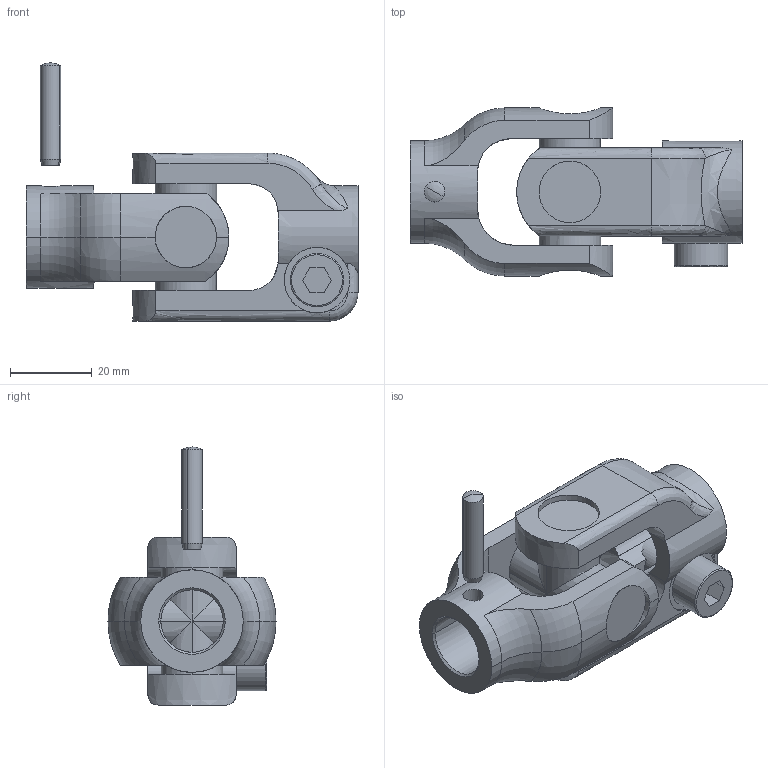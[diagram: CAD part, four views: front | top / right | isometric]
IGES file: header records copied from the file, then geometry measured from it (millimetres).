
Start section: START RECORD GO HERE.
Global section: file name: ZU31_UNIVERSAL_JOINT_BOLT-WELD_with_PIN.igs; native system: DASSAULT SYSTEMES CATIA Version 5-6 Release 2022 - www.3ds.com; preprocessor: V5-6R2022_5.32.4.0.02-23-2023.20.00; author: ARJ; organization: ARJ; date: 20260306.180159; units: millimetre
Bounding box: 81 x 41 x 63 mm (x, y, z)
Volume: 44481.8 mm3; surface area: 20026.5 mm2
Topology: 5 solids, 5 shells, 136 faces, 354 edges, 221 vertices
Faces by surface type: revolution 90, plane 43, bspline 3
